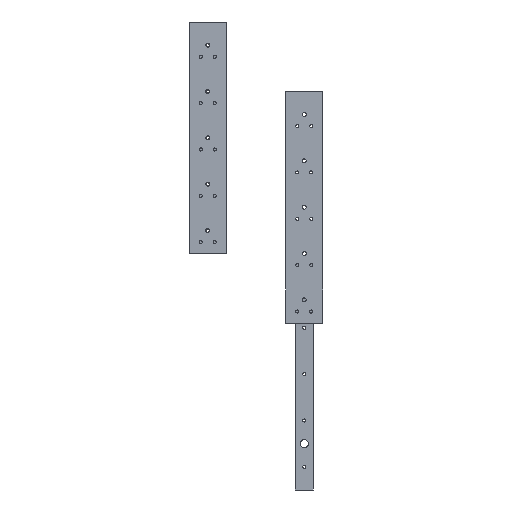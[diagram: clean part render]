
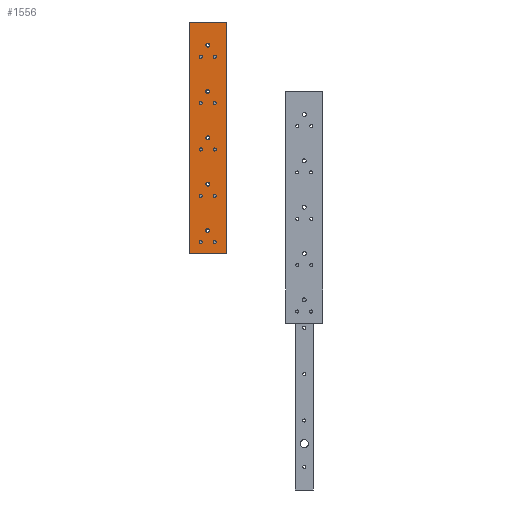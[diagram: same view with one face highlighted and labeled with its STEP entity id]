
A CAD part, left-side view. The second image highlights one B-rep face of the part: STEP entity #1556.
In plain terms, the highlighted planar face has unit normal (-1, 0, 0).
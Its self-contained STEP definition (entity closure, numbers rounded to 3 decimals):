
#133=CARTESIAN_POINT('',(0.,51.677,425.0));
#134=VERTEX_POINT('',#133);
#135=CARTESIAN_POINT('',(0.,55.,425.0));
#136=DIRECTION('',(1.0,0.0,0.0));
#137=DIRECTION('',(0.0,1.0,0.0));
#138=AXIS2_PLACEMENT_3D('',#135,#136,#137);
#139=CIRCLE('',#138,3.324);
#140=EDGE_CURVE('',#134,#134,#139,.T.);
#182=CARTESIAN_POINT('',(0.,21.677,425.0));
#183=VERTEX_POINT('',#182);
#184=CARTESIAN_POINT('',(0.,25.,425.0));
#185=DIRECTION('',(1.0,0.0,0.0));
#186=DIRECTION('',(0.0,1.0,0.0));
#187=AXIS2_PLACEMENT_3D('',#184,#185,#186);
#188=CIRCLE('',#187,3.324);
#189=EDGE_CURVE('',#183,#183,#188,.T.);
#231=CARTESIAN_POINT('',(0.,51.677,325.0));
#232=VERTEX_POINT('',#231);
#233=CARTESIAN_POINT('',(0.,55.,325.0));
#234=DIRECTION('',(1.0,0.0,0.0));
#235=DIRECTION('',(0.0,1.0,0.0));
#236=AXIS2_PLACEMENT_3D('',#233,#234,#235);
#237=CIRCLE('',#236,3.324);
#238=EDGE_CURVE('',#232,#232,#237,.T.);
#280=CARTESIAN_POINT('',(0.,21.677,325.0));
#281=VERTEX_POINT('',#280);
#282=CARTESIAN_POINT('',(0.,25.,325.0));
#283=DIRECTION('',(1.0,0.0,0.0));
#284=DIRECTION('',(0.0,1.0,0.0));
#285=AXIS2_PLACEMENT_3D('',#282,#283,#284);
#286=CIRCLE('',#285,3.324);
#287=EDGE_CURVE('',#281,#281,#286,.T.);
#329=CARTESIAN_POINT('',(0.,51.677,225.0));
#330=VERTEX_POINT('',#329);
#331=CARTESIAN_POINT('',(0.,55.,225.0));
#332=DIRECTION('',(1.0,0.0,0.0));
#333=DIRECTION('',(0.0,1.0,0.0));
#334=AXIS2_PLACEMENT_3D('',#331,#332,#333);
#335=CIRCLE('',#334,3.324);
#336=EDGE_CURVE('',#330,#330,#335,.T.);
#378=CARTESIAN_POINT('',(0.,21.677,225.0));
#379=VERTEX_POINT('',#378);
#380=CARTESIAN_POINT('',(0.,25.,225.0));
#381=DIRECTION('',(1.0,0.0,0.0));
#382=DIRECTION('',(0.0,1.0,0.0));
#383=AXIS2_PLACEMENT_3D('',#380,#381,#382);
#384=CIRCLE('',#383,3.324);
#385=EDGE_CURVE('',#379,#379,#384,.T.);
#427=CARTESIAN_POINT('',(0.,51.677,125.0));
#428=VERTEX_POINT('',#427);
#429=CARTESIAN_POINT('',(0.,55.,125.0));
#430=DIRECTION('',(1.0,0.0,0.0));
#431=DIRECTION('',(0.0,1.0,0.0));
#432=AXIS2_PLACEMENT_3D('',#429,#430,#431);
#433=CIRCLE('',#432,3.324);
#434=EDGE_CURVE('',#428,#428,#433,.T.);
#476=CARTESIAN_POINT('',(0.,21.677,125.0));
#477=VERTEX_POINT('',#476);
#478=CARTESIAN_POINT('',(0.,25.,125.0));
#479=DIRECTION('',(1.0,0.0,0.0));
#480=DIRECTION('',(0.0,1.0,0.0));
#481=AXIS2_PLACEMENT_3D('',#478,#479,#480);
#482=CIRCLE('',#481,3.324);
#483=EDGE_CURVE('',#477,#477,#482,.T.);
#525=CARTESIAN_POINT('',(0.,51.677,25.0));
#526=VERTEX_POINT('',#525);
#527=CARTESIAN_POINT('',(0.,55.,25.0));
#528=DIRECTION('',(1.0,0.0,0.0));
#529=DIRECTION('',(0.0,1.0,0.0));
#530=AXIS2_PLACEMENT_3D('',#527,#528,#529);
#531=CIRCLE('',#530,3.324);
#532=EDGE_CURVE('',#526,#526,#531,.T.);
#574=CARTESIAN_POINT('',(0.,21.677,25.0));
#575=VERTEX_POINT('',#574);
#576=CARTESIAN_POINT('',(0.,25.,25.0));
#577=DIRECTION('',(1.0,0.0,0.0));
#578=DIRECTION('',(0.0,1.0,0.0));
#579=AXIS2_PLACEMENT_3D('',#576,#577,#578);
#580=CIRCLE('',#579,3.324);
#581=EDGE_CURVE('',#575,#575,#580,.T.);
#672=CARTESIAN_POINT('',(0.,35.75,450.0));
#673=VERTEX_POINT('',#672);
#674=CARTESIAN_POINT('',(0.0,40.,450.0));
#675=DIRECTION('',(1.0,0.0,0.0));
#676=DIRECTION('',(0.0,1.0,0.0));
#677=AXIS2_PLACEMENT_3D('',#674,#675,#676);
#678=CIRCLE('',#677,4.25);
#679=EDGE_CURVE('',#673,#673,#678,.T.);
#762=CARTESIAN_POINT('',(0.,35.75,350.0));
#763=VERTEX_POINT('',#762);
#764=CARTESIAN_POINT('',(0.0,40.,350.0));
#765=DIRECTION('',(1.0,0.0,0.0));
#766=DIRECTION('',(0.0,1.0,0.0));
#767=AXIS2_PLACEMENT_3D('',#764,#765,#766);
#768=CIRCLE('',#767,4.25);
#769=EDGE_CURVE('',#763,#763,#768,.T.);
#852=CARTESIAN_POINT('',(0.,35.75,250.0));
#853=VERTEX_POINT('',#852);
#854=CARTESIAN_POINT('',(0.0,40.,250.0));
#855=DIRECTION('',(1.0,0.0,0.0));
#856=DIRECTION('',(0.0,1.0,0.0));
#857=AXIS2_PLACEMENT_3D('',#854,#855,#856);
#858=CIRCLE('',#857,4.25);
#859=EDGE_CURVE('',#853,#853,#858,.T.);
#942=CARTESIAN_POINT('',(0.,35.75,150.0));
#943=VERTEX_POINT('',#942);
#944=CARTESIAN_POINT('',(0.0,40.,150.0));
#945=DIRECTION('',(1.0,0.0,0.0));
#946=DIRECTION('',(0.0,1.0,0.0));
#947=AXIS2_PLACEMENT_3D('',#944,#945,#946);
#948=CIRCLE('',#947,4.25);
#949=EDGE_CURVE('',#943,#943,#948,.T.);
#1032=CARTESIAN_POINT('',(0.,35.75,50.0));
#1033=VERTEX_POINT('',#1032);
#1034=CARTESIAN_POINT('',(0.0,40.,50.0));
#1035=DIRECTION('',(1.0,0.0,0.0));
#1036=DIRECTION('',(0.0,1.0,0.0));
#1037=AXIS2_PLACEMENT_3D('',#1034,#1035,#1036);
#1038=CIRCLE('',#1037,4.25);
#1039=EDGE_CURVE('',#1033,#1033,#1038,.T.);
#1455=CARTESIAN_POINT('',(0.0,0.0,500.0));
#1456=VERTEX_POINT('',#1455);
#1463=CARTESIAN_POINT('',(0.0,0.0,0.0));
#1464=VERTEX_POINT('',#1463);
#1465=CARTESIAN_POINT('',(0.0,0.0,0.0));
#1466=DIRECTION('',(0.0,0.0,1.0));
#1467=VECTOR('',#1466,500.0);
#1468=LINE('',#1465,#1467);
#1469=EDGE_CURVE('',#1464,#1456,#1468,.T.);
#1481=CARTESIAN_POINT('',(0.0,40.,0.0));
#1482=DIRECTION('',(-1.0,0.0,0.0));
#1483=DIRECTION('',(0.0,0.0,1.0));
#1484=AXIS2_PLACEMENT_3D('',#1481,#1482,#1483);
#1485=PLANE('',#1484);
#1486=CARTESIAN_POINT('',(0.0,80.,500.0));
#1487=VERTEX_POINT('',#1486);
#1488=CARTESIAN_POINT('',(0.0,0.0,500.0));
#1489=DIRECTION('',(0.0,1.0,0.0));
#1490=VECTOR('',#1489,80.);
#1491=LINE('',#1488,#1490);
#1492=EDGE_CURVE('',#1456,#1487,#1491,.T.);
#1493=ORIENTED_EDGE('',*,*,#1492,.T.);
#1494=CARTESIAN_POINT('',(0.0,80.,0.0));
#1495=VERTEX_POINT('',#1494);
#1496=CARTESIAN_POINT('',(0.0,80.,0.0));
#1497=DIRECTION('',(0.0,0.0,1.0));
#1498=VECTOR('',#1497,500.0);
#1499=LINE('',#1496,#1498);
#1500=EDGE_CURVE('',#1495,#1487,#1499,.T.);
#1501=ORIENTED_EDGE('',*,*,#1500,.F.);
#1502=CARTESIAN_POINT('',(0.0,0.0,0.0));
#1503=DIRECTION('',(0.0,1.0,0.0));
#1504=VECTOR('',#1503,80.);
#1505=LINE('',#1502,#1504);
#1506=EDGE_CURVE('',#1464,#1495,#1505,.T.);
#1507=ORIENTED_EDGE('',*,*,#1506,.F.);
#1508=ORIENTED_EDGE('',*,*,#1469,.T.);
#1509=EDGE_LOOP('',(#1493,#1501,#1507,#1508));
#1510=FACE_OUTER_BOUND('',#1509,.T.);
#1511=ORIENTED_EDGE('',*,*,#140,.T.);
#1512=EDGE_LOOP('',(#1511));
#1513=FACE_BOUND('',#1512,.T.);
#1514=ORIENTED_EDGE('',*,*,#189,.T.);
#1515=EDGE_LOOP('',(#1514));
#1516=FACE_BOUND('',#1515,.T.);
#1517=ORIENTED_EDGE('',*,*,#238,.T.);
#1518=EDGE_LOOP('',(#1517));
#1519=FACE_BOUND('',#1518,.T.);
#1520=ORIENTED_EDGE('',*,*,#287,.T.);
#1521=EDGE_LOOP('',(#1520));
#1522=FACE_BOUND('',#1521,.T.);
#1523=ORIENTED_EDGE('',*,*,#336,.T.);
#1524=EDGE_LOOP('',(#1523));
#1525=FACE_BOUND('',#1524,.T.);
#1526=ORIENTED_EDGE('',*,*,#385,.T.);
#1527=EDGE_LOOP('',(#1526));
#1528=FACE_BOUND('',#1527,.T.);
#1529=ORIENTED_EDGE('',*,*,#434,.T.);
#1530=EDGE_LOOP('',(#1529));
#1531=FACE_BOUND('',#1530,.T.);
#1532=ORIENTED_EDGE('',*,*,#483,.T.);
#1533=EDGE_LOOP('',(#1532));
#1534=FACE_BOUND('',#1533,.T.);
#1535=ORIENTED_EDGE('',*,*,#532,.T.);
#1536=EDGE_LOOP('',(#1535));
#1537=FACE_BOUND('',#1536,.T.);
#1538=ORIENTED_EDGE('',*,*,#581,.T.);
#1539=EDGE_LOOP('',(#1538));
#1540=FACE_BOUND('',#1539,.T.);
#1541=ORIENTED_EDGE('',*,*,#679,.T.);
#1542=EDGE_LOOP('',(#1541));
#1543=FACE_BOUND('',#1542,.T.);
#1544=ORIENTED_EDGE('',*,*,#769,.T.);
#1545=EDGE_LOOP('',(#1544));
#1546=FACE_BOUND('',#1545,.T.);
#1547=ORIENTED_EDGE('',*,*,#859,.T.);
#1548=EDGE_LOOP('',(#1547));
#1549=FACE_BOUND('',#1548,.T.);
#1550=ORIENTED_EDGE('',*,*,#949,.T.);
#1551=EDGE_LOOP('',(#1550));
#1552=FACE_BOUND('',#1551,.T.);
#1553=ORIENTED_EDGE('',*,*,#1039,.T.);
#1554=EDGE_LOOP('',(#1553));
#1555=FACE_BOUND('',#1554,.T.);
#1556=ADVANCED_FACE('',(#1510,#1513,#1516,#1519,#1522,#1525,#1528,#1531,#1534,#1537,#1540,#1543,#1546,#1549,#1552,#1555),#1485,.T.);
